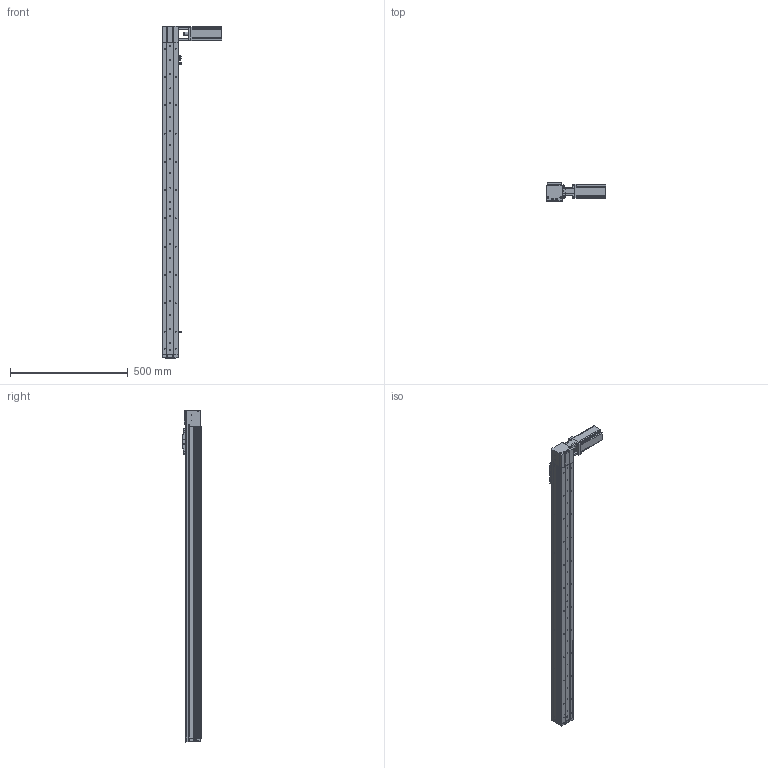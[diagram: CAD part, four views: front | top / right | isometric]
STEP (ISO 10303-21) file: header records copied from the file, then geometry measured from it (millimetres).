
FILE_DESCRIPTION (( 'STEP AP214' ), '1' );
FILE_NAME ('KSD68BS-S1150-MRT-CR.STEP', '2019-11-07T06:50:03', ( '微软用户' ), ( '微软中国' ), 'SwSTEP 2.0', 'SolidWorks 2014', '' );
FILE_SCHEMA (( 'AUTOMOTIVE_DESIGN' ));
Length unit declared in the file: millimetre
Products named in the file (13): KSD68BS 1150行程底板全封闭; KSD68BS-S1150-MRT-CR; 100遵鎮湛假蚾啣1; KSD68BS 1150行程盖板全封闭; 68遵裔啣揤啣1; 68宽单导轨全封闭丝杆传动安装板1防护罩; KSD68BS 1150行程侧板全封闭; 68宽单导轨全封闭同步带端板; 68单导轨全封闭同步带电机座左; 68单导轨全封闭同步带安装板; 感应片68宽全封闭; U倰嫖萇EEㄜSX672; 台达ECMA－C20604AS伺服电机（400W)
Assembly tree (16 placements, depth 2):
  KSD68BS-S1150-MRT-CR
    KSD68BS 1150行程底板全封闭
    台达ECMA－C20604AS伺服电机（400W)
    U倰嫖萇EEㄜSX672  x3
    感应片68宽全封闭
    68单导轨全封闭同步带安装板
    68单导轨全封闭同步带电机座左
    68宽单导轨全封闭同步带端板
    KSD68BS 1150行程侧板全封闭  x2
    68宽单导轨全封闭丝杆传动安装板1防护罩
    68遵裔啣揤啣1  x2
    KSD68BS 1150行程盖板全封闭
    100遵鎮湛假蚾啣1
Bounding box: 252.7 x 77 x 1408.1 mm (x, y, z)
Volume: 2686513.1 mm3; surface area: 1029604.3 mm2
Topology: 17 solids, 17 shells, 1497 faces, 4286 edges, 2732 vertices
Faces by surface type: cylinder 719, plane 602, cone 176
Entity records: 48130 total; most frequent: CARTESIAN_POINT 8329, DIRECTION 7113, ORIENTED_EDGE 6808, EDGE_CURVE 3404, AXIS2_PLACEMENT_3D 2584, VERTEX_POINT 2230, VECTOR 1945, LINE 1945
